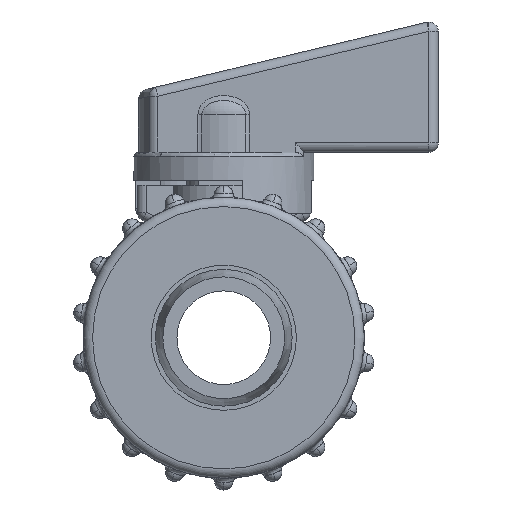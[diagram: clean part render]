
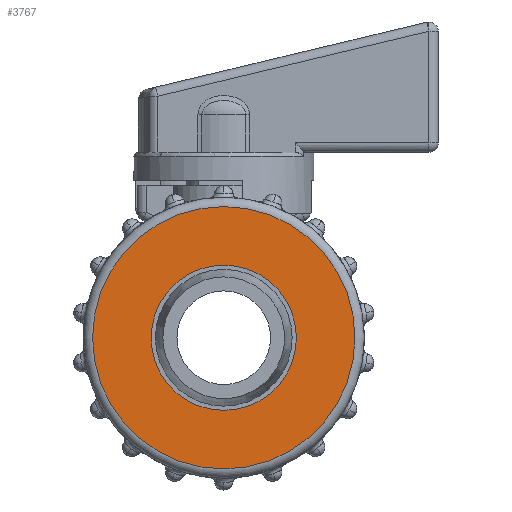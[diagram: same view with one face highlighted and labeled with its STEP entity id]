
A CAD part, left-side view. The second image highlights one B-rep face of the part: STEP entity #3767.
In plain terms, the highlighted planar face has unit normal (-1, 0, 0).
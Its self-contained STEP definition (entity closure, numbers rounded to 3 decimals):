
#3693=CARTESIAN_POINT('',(-37.7,-0.,-7.75));
#3694=VERTEX_POINT('',#3693);
#3718=CARTESIAN_POINT('',(-37.7,0.,0.));
#3719=DIRECTION('',(1.,0.,0.));
#3720=DIRECTION('',(0.,0.,-1.));
#3721=AXIS2_PLACEMENT_3D('',#3718,#3719,#3720);
#3722=CIRCLE('',#3721,7.75);
#3723=EDGE_CURVE('',#3694,#3694,#3722,.T.);
#3748=CARTESIAN_POINT('',(-37.7,0.,15.));
#3749=DIRECTION('',(-1.,0.,0.));
#3750=DIRECTION('',(0.,0.,1.));
#3751=AXIS2_PLACEMENT_3D('',#3748,#3749,#3750);
#3752=PLANE('',#3751);
#3753=CARTESIAN_POINT('',(-37.7,-0.,14.));
#3754=VERTEX_POINT('',#3753);
#3755=CARTESIAN_POINT('',(-37.7,0.,0.));
#3756=DIRECTION('',(-1.,0.,0.));
#3757=DIRECTION('',(0.,0.,1.));
#3758=AXIS2_PLACEMENT_3D('',#3755,#3756,#3757);
#3759=CIRCLE('',#3758,14.);
#3760=EDGE_CURVE('',#3754,#3754,#3759,.T.);
#3761=ORIENTED_EDGE('',*,*,#3760,.T.);
#3762=EDGE_LOOP('',(#3761));
#3763=FACE_BOUND('',#3762,.T.);
#3764=ORIENTED_EDGE('',*,*,#3723,.T.);
#3765=EDGE_LOOP('',(#3764));
#3766=FACE_BOUND('',#3765,.T.);
#3767=ADVANCED_FACE('',(#3763,#3766),#3752,.T.);
